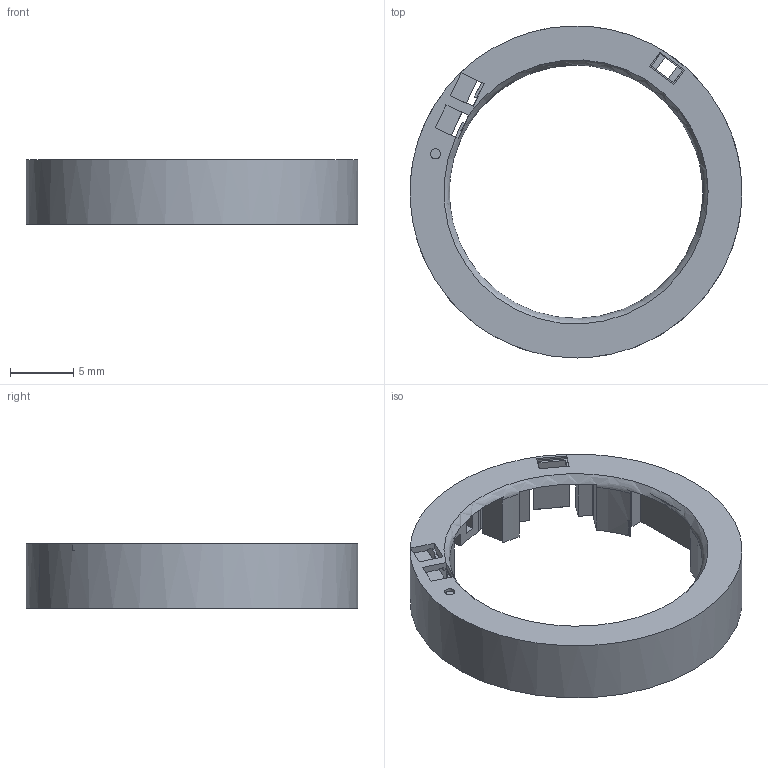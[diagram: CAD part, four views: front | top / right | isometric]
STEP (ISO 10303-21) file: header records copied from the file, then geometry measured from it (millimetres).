
FILE_DESCRIPTION(('FreeCAD Model'),'2;1');
FILE_NAME('Open CASCADE Shape Model','2026-10-23T21:15:57',('FreeCAD'),( 'FreeCAD'),'Open CASCADE STEP processor 7.8','FreeCAD','Unknown');
FILE_SCHEMA(('AUTOMOTIVE_DESIGN { 1 0 10303 214 1 1 1 1 }'));
Length unit declared in the file: millimetre
Products named in the file (1): Open CASCADE STEP translator 7.8 23
Bounding box: 26.18 x 26.17 x 5.05 mm (x, y, z)
Volume: 622.9 mm3; surface area: 1636.5 mm2
Topology: 1 solids, 1 shells, 211 faces, 614 edges, 407 vertices
Faces by surface type: plane 193, cylinder 17, revolution 1
Full cylindrical faces by diameter (mm): 0.8 x1, 26.18 x1
Entity records: 7070 total; most frequent: CARTESIAN_POINT 1464, ORIENTED_EDGE 1228, DIRECTION 1055, EDGE_CURVE 614, LINE 546, VECTOR 546, VERTEX_POINT 407, AXIS2_PLACEMENT_3D 254
